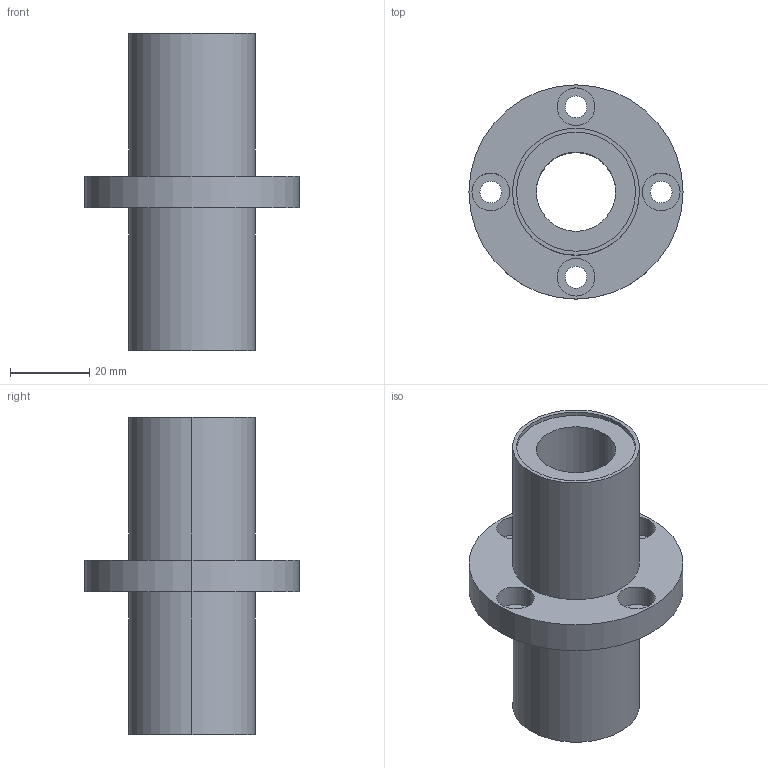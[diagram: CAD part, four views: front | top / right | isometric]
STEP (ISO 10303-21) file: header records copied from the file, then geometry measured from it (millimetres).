
FILE_DESCRIPTION((''),'2;1');
FILE_NAME('C:\Documents and Settings\ｿﾀﾀ蠑ｷ1\ｹﾙﾅﾁ ﾈｭｸ饅\ｺﾎﾇｰﾆﾄﾀﾏ\ﾁｦﾇｰ\LMEFM__UU\LMEFM20UU.stp','2005-06-16T13:28:29',('ｿﾀﾀ蠑ｷ1'),(''),'Autodesk Inventor 9','Autodesk Inventor 9','');
FILE_SCHEMA(('AUTOMOTIVE_DESIGN { 1 0 10303 214 1 1 1 1 }'));
Length unit declared in the file: millimetre
Products named in the file (1): LMEFM__UU
Bounding box: 54 x 54 x 80 mm (x, y, z)
Volume: 48531.5 mm3; surface area: 18271.1 mm2
Topology: 1 solids, 1 shells, 38 faces, 84 edges, 56 vertices
Faces by surface type: bspline 20, cylinder 12, plane 6
Entity records: 1335 total; most frequent: CARTESIAN_POINT 463, DIRECTION 178, ORIENTED_EDGE 168, EDGE_CURVE 84, AXIS2_PLACEMENT_3D 75, VERTEX_POINT 56, CIRCLE 56, EDGE_LOOP 56
